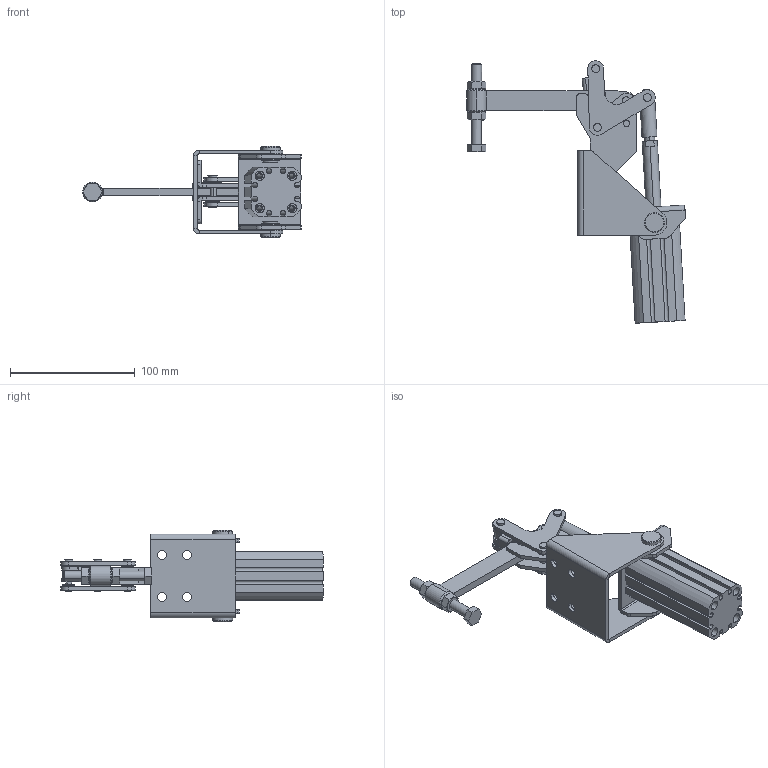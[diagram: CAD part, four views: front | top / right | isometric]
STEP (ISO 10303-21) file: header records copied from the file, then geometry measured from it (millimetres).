
FILE_DESCRIPTION (( 'STEP AP203' ), '1' );
FILE_NAME ('KF-019 DS P.STEP', '2014-08-28T19:30:17', ( 'Ricardo' ), ( '' ), 'SwSTEP 2.0', 'SolidWorks 2013', '' );
FILE_SCHEMA (( 'CONFIG_CONTROL_DESIGN' ));
Length unit declared in the file: millimetre
Products named in the file (23): PSB-M8; 17.50007; 05.20017; KF-019 DS P; 501-012; 06.50001; HI_CD55B25-50(0)_BODY; 06.50028; HI_C55B25-50M(0)_ROD; 01.10029; 02.12022_Direita; CD55B25-50M_avan㌢do; 15.10058; 02.12022_Esquerda; 20.20004; 15.10059; 03.15003; 12.50020; 15.20010; 04.10001; 11.50002; 16.20068; 16.20069
Assembly tree (40 placements, depth 3):
  KF-019 DS P
    02.12022_Direita
    02.12022_Esquerda
    03.15003
    04.10001
    16.20069
    05.20017
    06.50001  x2
    06.50028  x3
    01.10029  x2
    15.10058
    15.10059
    15.20010
    16.20068  x2
    17.50007  x12
    501-012  x2
    CD55B25-50M_avan㌢do
      HI_CD55B25-50(0)_BODY
      HI_C55B25-50M(0)_ROD
    PSB-M8
      20.20004
      12.50020
      11.50002  x2
Bounding box: 175.04 x 209.99 x 73 mm (x, y, z)
Volume: 199242.3 mm3; surface area: 113896.1 mm2
Topology: 38 solids, 38 shells, 817 faces, 1899 edges, 1184 vertices
Faces by surface type: cylinder 366, plane 277, cone 174
Entity records: 19656 total; most frequent: DIRECTION 3109, CARTESIAN_POINT 3028, ORIENTED_EDGE 2662, EDGE_CURVE 1331, AXIS2_PLACEMENT_3D 1194, VERTEX_POINT 849, VECTOR 721, LINE 721
